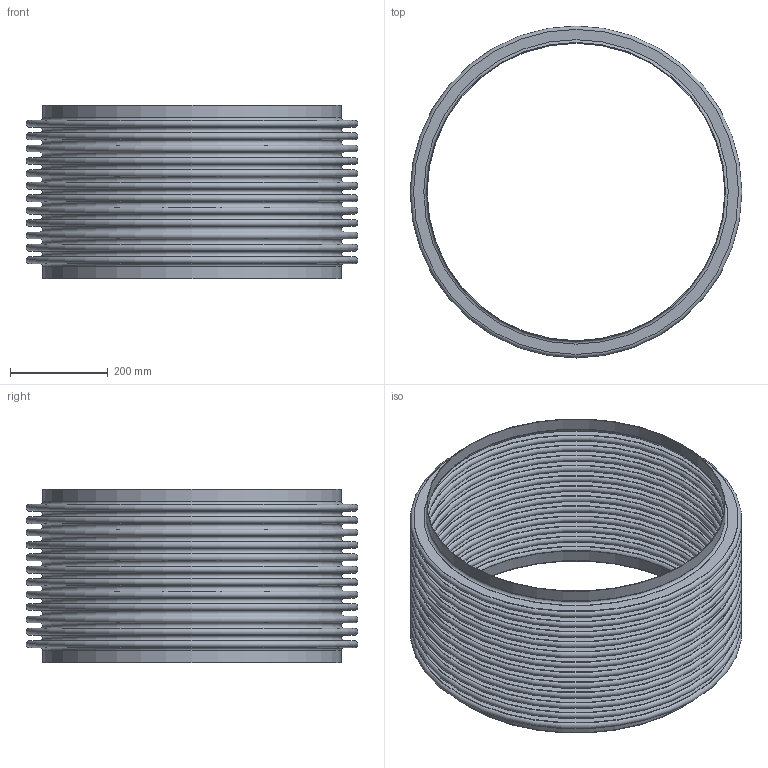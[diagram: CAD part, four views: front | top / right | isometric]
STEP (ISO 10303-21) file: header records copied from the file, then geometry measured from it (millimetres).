
FILE_DESCRIPTION(/* description */ (''),/* implementation_level */ '2;1');
FILE_NAME(/* name */ 'US-24-12-85L.stp',/* time_stamp */ '2026-07-21T11:19:31-05:00',/* author */ ('linda'),/* organization */ (''),/* preprocessor_version */ 'ST-DEVELOPER v20.1',/* originating_system */ 'Autodesk Inventor 2026',/* authorisation */ '');
FILE_SCHEMA (('AUTOMOTIVE_DESIGN { 1 0 10303 214 3 1 1 }'));
Length unit declared in the file: inch
Products named in the file (1): Part3
Bounding box: 679.45 x 679.45 x 355.6 mm (x, y, z)
Volume: 2545359.2 mm3; surface area: 4189495.5 mm2
Topology: 3 solids, 3 shells, 108 faces, 162 edges, 109 vertices
Faces by surface type: plane 54, torus 50, cylinder 4
Full cylindrical faces by diameter (mm): 609.6 x2, 612.038 x2
Entity records: 2667 total; most frequent: DIRECTION 538, CARTESIAN_POINT 380, ORIENTED_EDGE 324, AXIS2_PLACEMENT_3D 267, EDGE_LOOP 162, EDGE_CURVE 162, CIRCLE 158, STYLED_ITEM 111
